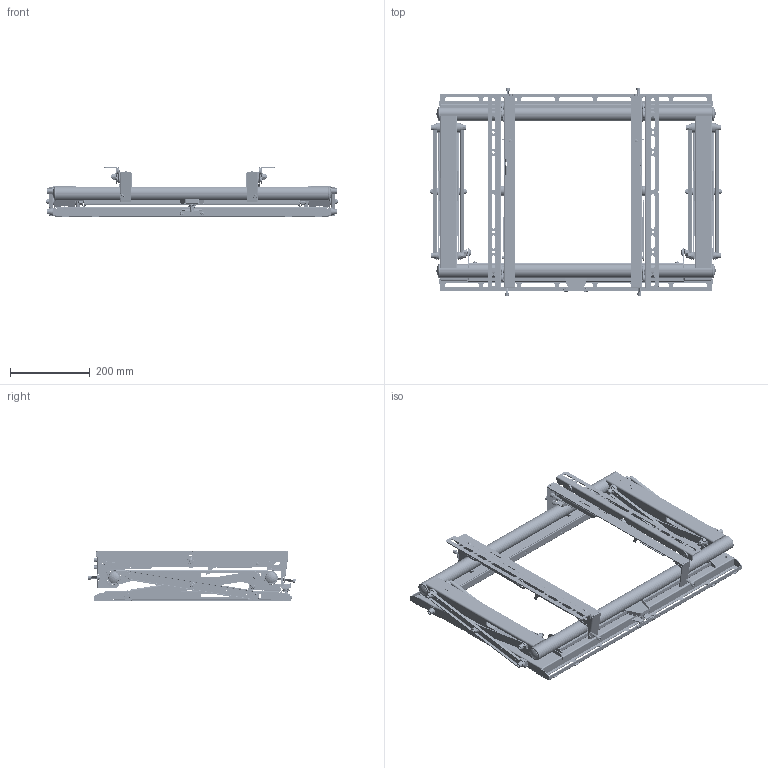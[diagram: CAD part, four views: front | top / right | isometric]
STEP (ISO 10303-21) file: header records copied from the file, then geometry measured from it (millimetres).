
FILE_DESCRIPTION (( 'STEP AP203' ), '1' );
FILE_NAME ('4100-070-000-XX.STEP', '2018-08-03T17:24:09', ( '' ), ( '' ), 'SwSTEP 2.0', 'SolidWorks 2018', '' );
FILE_SCHEMA (( 'CONFIG_CONTROL_DESIGN' ));
Length unit declared in the file: inch
Products named in the file (62): 4100-070-034-XX; 4100-070-000-XX; 180X-086-181-39; 219X-406-100-48; 4100-070-002-XX; 204X-416-500-44; 4100-070-084-XX; 0474-052-077-6X; 219X-417-900-47; 0517-079-373-BX; 4100-070-080-XX_FLAT NEUTRAL POSITION; 4100-070-005-XX; 199X-517-900-52; 4100-070-037-XX; 4100-070-061-XX; 0475-064-147-6X; 0517-079-390-BX; 4100-070-092-XX; 4100-070-006-XX; 204X-488-000-48; 4100-070-036-XX; 4100-070-062-XX; 1051-064-012-1X_1051-064-012-1X; 1070-079-015-0X_1182-079-014-6X; 4100-070-091-XX; 4100-070-007-XX; 0516-051-091-Q1_0516-051-091-Q1; 0520-064-242-6X; 4100-070-001-XX_fully retracted; 203X-488-300-50; 0700-220-226-10; 4100-070-094-XX; 4100-070-040-XX; 0517-060-390-BX_0517-060-390-6X; 4100-070-009-XX; 0728-395-801-XX; 4100-070-082-XX; 0803-000-000-01; 0821-100-000-00; 4100-070-093-XX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
Assembly tree (229 placements, depth 4):
  4100-070-000-XX
    4100-070-001-XX_fully retracted
      4100-070-050-XX
        4100-070-009-XX
        4100-070-008-XX
      4100-070-004-XX  x2
      4100-070-002-XX  x4
      4100-070-040-XX
        4100-070-005-XX  x2
        4100-070-006-XX  x2
        4100-070-007-XX  x2
      4100-070-003-XX  x2
      198X-507-600-50  x20
      219X-508-100-56  x28
      180X-086-181-39  x4
      0517-079-373-BX  x4
      0517-079-390-BX  x4
      1070-079-015-0X_1182-079-014-6X  x12
      0700-220-226-10  x4
      0821-100-000-00  x2
      1658-052-091-6X  x4
      4100-070-035-XX
        4100-070-033-XX
        4100-070-034-XX
        219X-417-900-47  x2
        0475-064-147-6X  x2
        1051-064-012-1X_1051-064-012-1X  x2
        203X-488-300-50  x4
        0803-000-000-01
        0474-027-077-6X  x2
        0821-000-000-02  x2
      0474-052-077-6X  x4
      4100-070-061-XX  x4
      4100-070-062-XX  x4
    4100-070-080-XX_FLAT NEUTRAL POSITION
      4100-070-082-XX
      4100-070-081-XX
      4100-070-083-XX
      4100-070-086-XX  x2
      4100-070-084-XX
      4100-070-037-XX
      4100-070-036-XX
      0520-064-242-6X  x2
      0728-395-801-XX
      1070-061-012-9X_0000000  x2
      1496-039-017-18  x4
      198X-335-500-38
      204X-416-500-44  x6
      1070-079-015-0X_1182-079-014-6X
      199X-517-900-52
      204X-488-000-48
      0516-051-091-Q1_0516-051-091-Q1  x2
      219X-417-900-47  x8
      0517-060-390-BX_0517-060-390-6X  x2
      1070-052-011-9X_1070-052-011-9X  x2
      0722-185-200-9X  x3
      4100-070-085-XX
      180X-086-181-39
      219X-406-100-48  x2
    4100-070-090-XX_FLAT NEUTRAL POSITION
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Bounding box: 734.03 x 520.48 x 125.53 mm (x, y, z)
Volume: 1962128.7 mm3; surface area: 1997231.9 mm2
Topology: 246 solids, 246 shells, 18216 faces, 45163 edges, 27934 vertices
Faces by surface type: plane 6594, cylinder 5852, bspline 2878, torus 1512, cone 936, sphere 444
Entity records: 394247 total; most frequent: CARTESIAN_POINT 195866, ORIENTED_EDGE 41812, DIRECTION 34153, EDGE_CURVE 20906, VERTEX_POINT 13261, VECTOR 12167, LINE 12167, AXIS2_PLACEMENT_3D 10993
